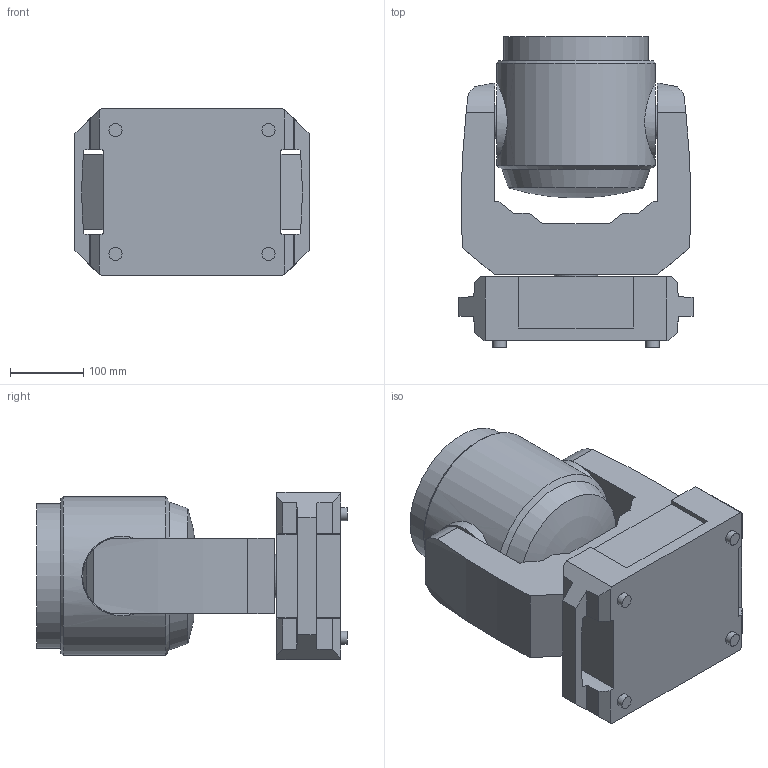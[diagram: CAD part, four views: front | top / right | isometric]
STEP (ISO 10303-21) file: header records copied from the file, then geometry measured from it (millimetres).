
FILE_DESCRIPTION(/* description */ ('Unknown'),/* implementation_level */ '2;1');
FILE_NAME(/* name */ '3D_LEDBeam400',/* time_stamp */ '2026-06-01T14:42:00+02:00',/* author */ ('Unknown'),/* organization */ ('Unknown'),/* preprocessor_version */ 'ST-DEVELOPER v20',/* originating_system */ 'Solid Edge',/* authorisation */ 'Unknown');
FILE_SCHEMA (('AUTOMOTIVE_DESIGN {1 0 10303 214 3 1 1}'));
Length unit declared in the file: millimetre
Products named in the file (4): 3D_LEDBeam400_GDTF; Head LB400; Arm LB400; Base LB400
Assembly tree (3 placements, depth 2):
  3D_LEDBeam400_GDTF
    Head LB400
    Arm LB400
    Base LB400
Bounding box: 320 x 424 x 229.3 mm (x, y, z)
Volume: 16516566.8 mm3; surface area: 661279.1 mm2
Topology: 3 solids, 3 shells, 101 faces, 264 edges, 176 vertices
Faces by surface type: plane 73, cylinder 24, cone 3, torus 1
Full cylindrical faces by diameter (mm): 18 x4, 45 x2, 59.6 x1, 62 x1, 108.823 x2, 198 x1, 216.987 x1
Entity records: 3240 total; most frequent: CARTESIAN_POINT 660, DIRECTION 526, ORIENTED_EDGE 488, EDGE_CURVE 244, AXIS2_PLACEMENT_3D 183, VERTEX_POINT 173, LINE 160, VECTOR 160
